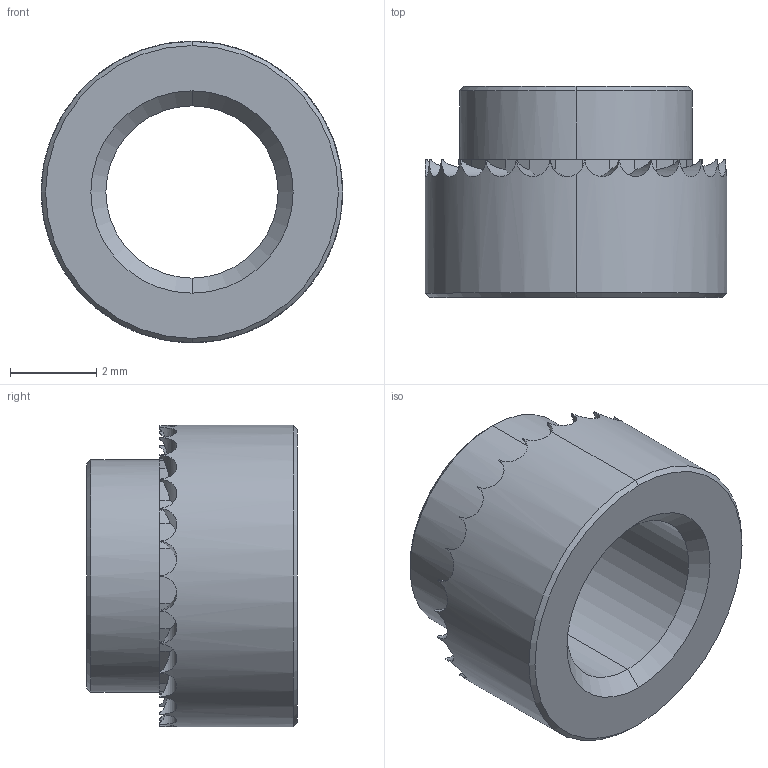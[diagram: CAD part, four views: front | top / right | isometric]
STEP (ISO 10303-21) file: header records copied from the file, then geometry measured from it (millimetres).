
FILE_DESCRIPTION (( 'STEP AP203' ), '1' );
FILE_NAME ('P0829.040-18G-ZP.step', '2019-03-21T22:15:01', ( '' ), ( '' ), 'SwSTEP 2.0', 'SolidWorks 2017', '' );
FILE_SCHEMA (( 'CONFIG_CONTROL_DESIGN' ));
Length unit declared in the file: millimetre
Products named in the file (1): P0829.040-18G-ZP
Bounding box: 7 x 4.9 x 7 mm (x, y, z)
Volume: 93.7 mm3; surface area: 209.2 mm2
Topology: 1 solids, 1 shells, 124 faces, 304 edges, 182 vertices
Faces by surface type: plane 83, cylinder 33, cone 8
Entity records: 3865 total; most frequent: CARTESIAN_POINT 943, ORIENTED_EDGE 608, DIRECTION 597, EDGE_CURVE 304, AXIS2_PLACEMENT_3D 224, VERTEX_POINT 182, LINE 149, VECTOR 149
